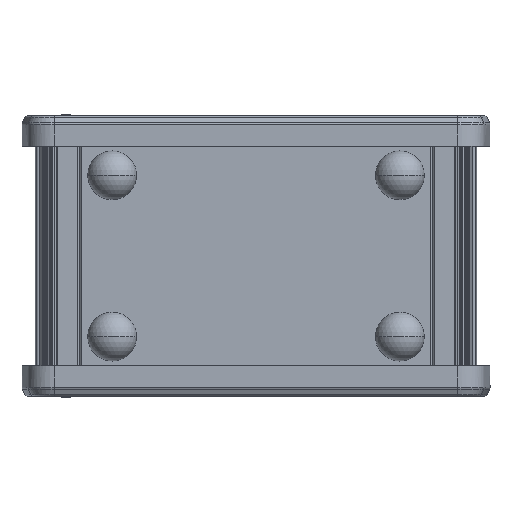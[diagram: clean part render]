
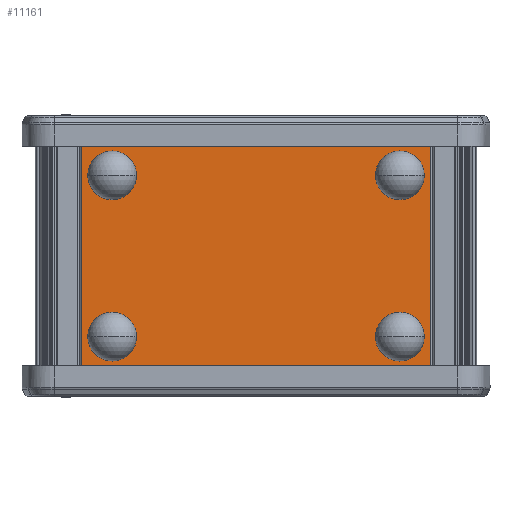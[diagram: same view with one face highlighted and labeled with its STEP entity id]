
A CAD part, front view. The second image highlights one B-rep face of the part: STEP entity #11161.
In plain terms, the highlighted planar face has unit normal (0, -1, 0).
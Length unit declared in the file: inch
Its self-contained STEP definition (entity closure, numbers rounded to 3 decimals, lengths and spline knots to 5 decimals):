
#519 = DIRECTION ( 'NONE',  ( 1., 0., 0. ) ) ;
#3325 = VECTOR ( 'NONE', #17933, 39.37008 ) ;
#3894 = ORIENTED_EDGE ( 'NONE', *, *, #17601, .F. ) ;
#5311 = DIRECTION ( 'NONE',  ( 0., 1., 0. ) ) ;
#6664 = CARTESIAN_POINT ( 'NONE',  ( -1.693, -0.88583, -1.1811 ) ) ;
#7105 = CARTESIAN_POINT ( 'NONE',  ( -1.693, -0.88583, 1.1811 ) ) ;
#7462 = CARTESIAN_POINT ( 'NONE',  ( 1.693, -0.88583, 1.1811 ) ) ;
#7647 = ORIENTED_EDGE ( 'NONE', *, *, #18188, .T. ) ;
#7784 = CARTESIAN_POINT ( 'NONE',  ( 1.693, -0.88583, -1.1811 ) ) ;
#8884 = CARTESIAN_POINT ( 'NONE',  ( -1.693, -0.88583, 1.1811 ) ) ;
#9355 = CARTESIAN_POINT ( 'NONE',  ( -1.693, -0.88583, -1.1811 ) ) ;
#9522 = EDGE_CURVE ( 'NONE', #17199, #10720, #16542, .T. ) ;
#9898 = EDGE_LOOP ( 'NONE', ( #13757, #3894, #21640, #7647 ) ) ;
#10720 = VERTEX_POINT ( 'NONE', #7784 ) ;
#11161 = ADVANCED_FACE ( 'NONE', ( #21484 ), #17995, .F. ) ;
#11392 = AXIS2_PLACEMENT_3D ( 'NONE', #19605, #5311, #19852 ) ;
#13757 = ORIENTED_EDGE ( 'NONE', *, *, #9522, .T. ) ;
#13802 = VERTEX_POINT ( 'NONE', #7105 ) ;
#15687 = DIRECTION ( 'NONE',  ( 1., 0., 0. ) ) ;
#15987 = VECTOR ( 'NONE', #519, 39.37008 ) ;
#16542 = LINE ( 'NONE', #6664, #16809 ) ;
#16809 = VECTOR ( 'NONE', #15687, 39.37008 ) ;
#16830 = LINE ( 'NONE', #18425, #15987 ) ;
#17199 = VERTEX_POINT ( 'NONE', #9355 ) ;
#17601 = EDGE_CURVE ( 'NONE', #19144, #10720, #18635, .T. ) ;
#17933 = DIRECTION ( 'NONE',  ( 0., 0., -1. ) ) ;
#17995 = PLANE ( 'NONE',  #11392 ) ;
#18089 = CARTESIAN_POINT ( 'NONE',  ( 1.693, -0.88583, 1.1811 ) ) ;
#18188 = EDGE_CURVE ( 'NONE', #13802, #17199, #22248, .T. ) ;
#18425 = CARTESIAN_POINT ( 'NONE',  ( -1.693, -0.88583, 1.1811 ) ) ;
#18635 = LINE ( 'NONE', #18089, #3325 ) ;
#19144 = VERTEX_POINT ( 'NONE', #7462 ) ;
#19605 = CARTESIAN_POINT ( 'NONE',  ( -1.693, -0.88583, 1.1811 ) ) ;
#19733 = VECTOR ( 'NONE', #22542, 39.37008 ) ;
#19852 = DIRECTION ( 'NONE',  ( -1., 0., 0. ) ) ;
#20783 = EDGE_CURVE ( 'NONE', #13802, #19144, #16830, .T. ) ;
#21484 = FACE_OUTER_BOUND ( 'NONE', #9898, .T. ) ;
#21640 = ORIENTED_EDGE ( 'NONE', *, *, #20783, .F. ) ;
#22248 = LINE ( 'NONE', #8884, #19733 ) ;
#22542 = DIRECTION ( 'NONE',  ( 0., 0., -1. ) ) ;
